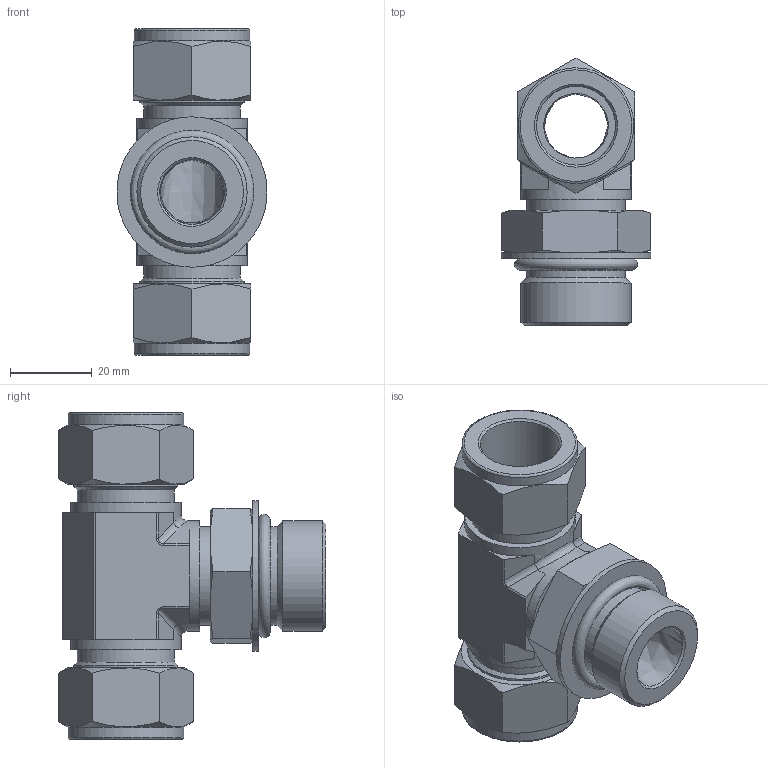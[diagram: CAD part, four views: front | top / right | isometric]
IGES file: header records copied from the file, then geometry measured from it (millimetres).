
Global section: file name: SPMBT-12-12U; native system: Autodesk Inventor 2016; preprocessor: unknown; author: DESIGNPC2; date: 20160312.161332; units: millimetre
Bounding box: 36.6 x 65.3 x 79.79 mm (x, y, z)
Volume: 46968.1 mm3; surface area: 23340.4 mm2
Topology: 4 solids, 4 shells, 143 faces, 361 edges, 234 vertices
Faces by surface type: bspline 143
